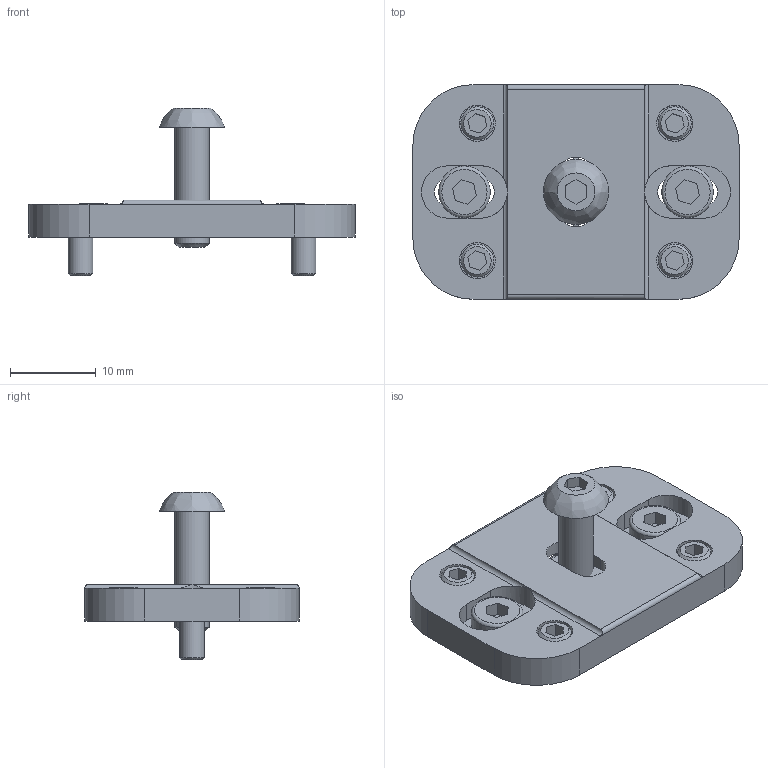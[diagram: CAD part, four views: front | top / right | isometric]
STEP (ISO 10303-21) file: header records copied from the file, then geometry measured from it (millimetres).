
FILE_DESCRIPTION(/* description */ (''),/* implementation_level */ '2;1');
FILE_NAME(/* name */ 'ST1487867_01_v2.stp',/* time_stamp */ '2021-11-29T10:37:33+01:00',/* author */ (''),/* organization */ (''),/* preprocessor_version */ 'ST-DEVELOPER v18.1',/* originating_system */ 'SIEMENS PLM Software NX 1992',/* authorisation */ '');
FILE_SCHEMA (('AUTOMOTIVE_DESIGN { 1 0 10303 214 3 1 1 1 }'));
Length unit declared in the file: millimetre
Products named in the file (5): 2106_VTC3x6ribassata; 2106_GRP4x4; 2106_DEM4basso; 2106_VTB4X14; ST1487867_01_v2
Assembly tree (12 placements, depth 2):
  ST1487867_01_v2
    2106_VTB4X14
    2106_DEM4basso  x5
    2106_GRP4x4  x4
    2106_VTC3x6ribassata  x2
Bounding box: 38 x 25 x 19.5 mm (x, y, z)
Volume: 3137.3 mm3; surface area: 4725 mm2
Topology: 13 solids, 13 shells, 347 faces, 894 edges, 596 vertices
Faces by surface type: plane 185, cylinder 88, cone 71, torus 2, bspline 1
Full cylindrical faces by diameter (mm): 2.874 x2, 3.432 x5, 3.838 x4, 4 x1, 4.2 x4, 6 x2
Entity records: 7613 total; most frequent: CARTESIAN_POINT 1579, DIRECTION 1102, ORIENTED_EDGE 1086, EDGE_CURVE 543, AXIS2_PLACEMENT_3D 384, VERTEX_POINT 373, LINE 334, VECTOR 334
